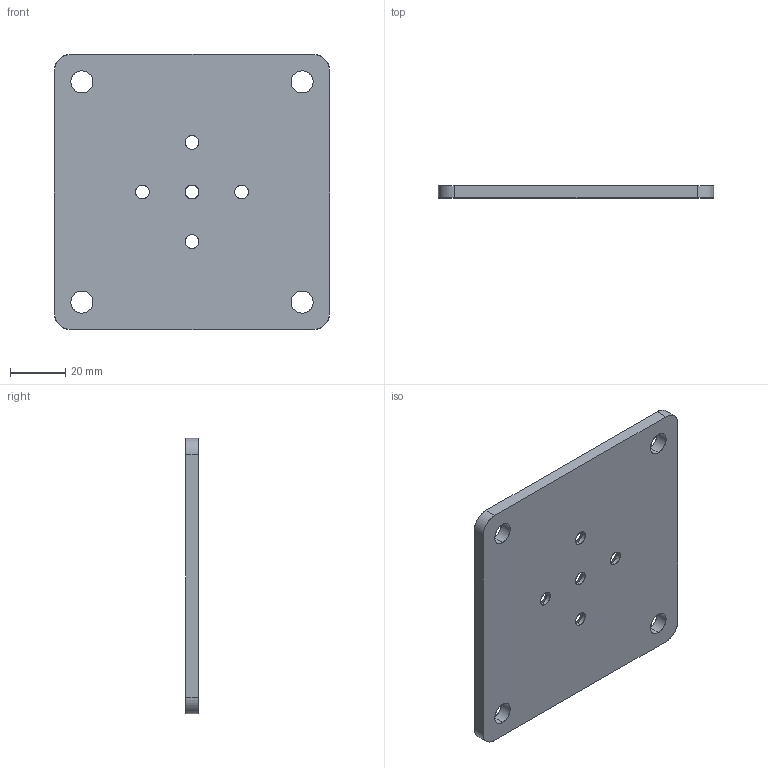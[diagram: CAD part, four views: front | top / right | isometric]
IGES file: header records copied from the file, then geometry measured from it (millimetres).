
Start section: SolidWorks IGES file using analytic representation for surfaces
Bounding box: 100 x 4.5 x 100 mm (x, y, z)
Surface area: 21819.7 mm2 (no closed solid volume)
Topology: 0 solids, 0 shells, 38 faces, 792 edges, 792 vertices
Faces by surface type: revolution 32, bspline 6
